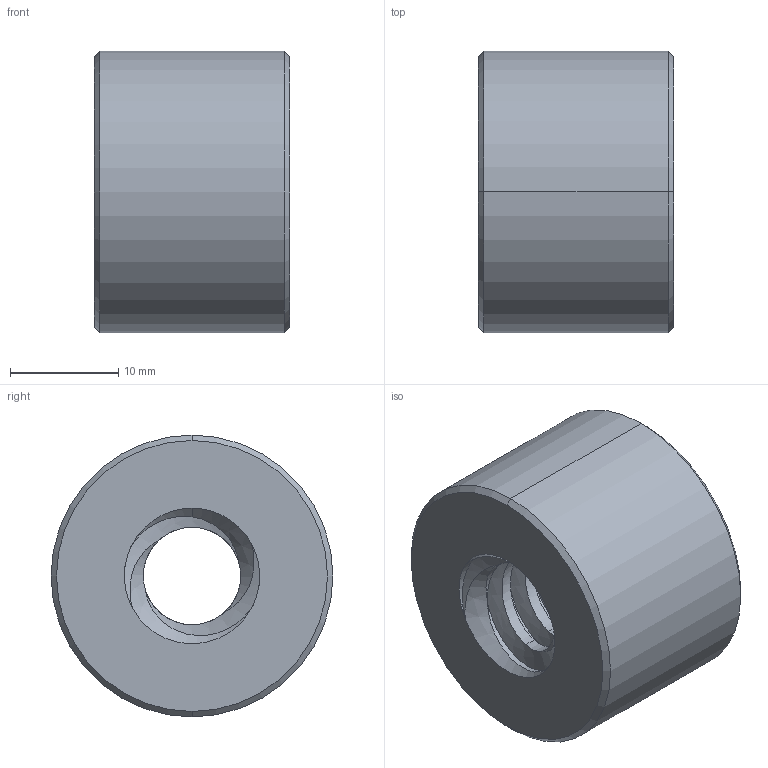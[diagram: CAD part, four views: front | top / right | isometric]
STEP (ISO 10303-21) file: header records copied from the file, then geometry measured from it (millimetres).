
FILE_DESCRIPTION((''),'2;1');
FILE_NAME('711-012-1105_PRT','2024-03-23T',('Brieden'),('ib-brieden'),'PRO/ENGINEER BY PARAMETRIC TECHNOLOGY CORPORATION, 2010160','PRO/ENGINEER BY PARAMETRIC TECHNOLOGY CORPORATION, 2010160','');
FILE_SCHEMA(('AUTOMOTIVE_DESIGN { 1 0 10303 214 1 1 1 1 }'));
Length unit declared in the file: millimetre
Products named in the file (1): 711-012-1105_PRT
Bounding box: 18 x 26 x 26 mm (x, y, z)
Volume: 7846.1 mm3; surface area: 3380.9 mm2
Topology: 1 solids, 1 shells, 30 faces, 72 edges, 44 vertices
Faces by surface type: cylinder 12, cone 10, bspline 6, plane 2
Entity records: 2538 total; most frequent: CARTESIAN_POINT 1857, ORIENTED_EDGE 144, DIRECTION 100, EDGE_CURVE 72, VERTEX_POINT 44, AXIS2_PLACEMENT_3D 42, B_SPLINE_CURVE_WITH_KNOTS 38, EDGE_LOOP 32
